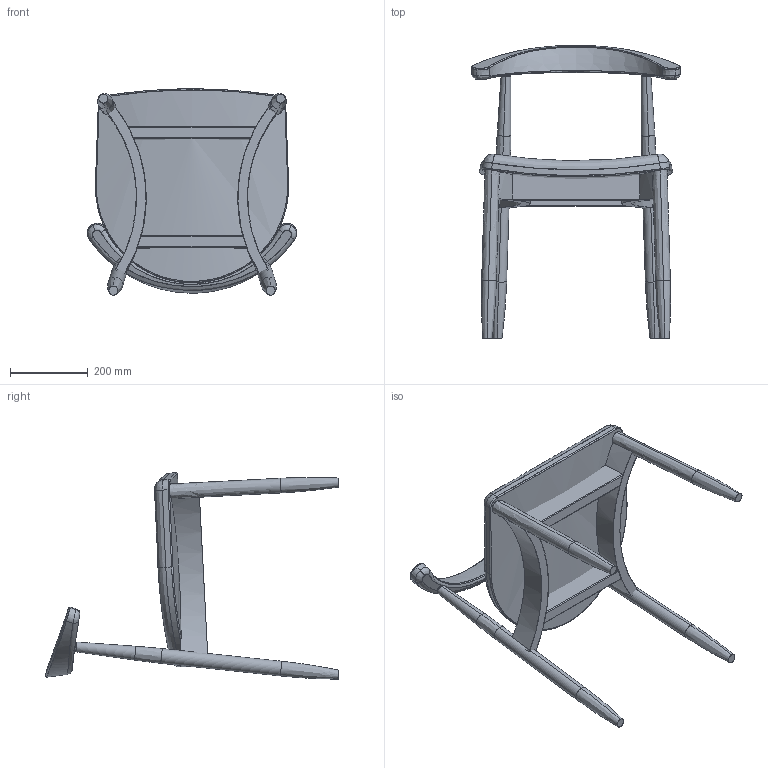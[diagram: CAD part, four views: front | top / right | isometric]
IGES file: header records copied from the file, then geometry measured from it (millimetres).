
Start section: SolidWorks IGES file using analytic representation for surfaces
Global section: file name: C:\Users\adao\Documents\Trab Adao\Desenho técnico PRODUÇÃO\J M S\Catalogo MORE 2016\JOANNE\CADEIRA\3D Cadeiras JOANNE\3D Cadeira JOANNE M-951 UW.IGS; native system: SolidWorks 2017; preprocessor: SolidWorks 2017; author: Adao; date: 171002.151614; units: millimetre
Bounding box: 538.58 x 755.55 x 531.67 mm (x, y, z)
Surface area: 1126465.3 mm2 (no closed solid volume)
Topology: 0 solids, 0 shells, 139 faces, 2313 edges, 2311 vertices
Faces by surface type: bspline 105, revolution 34
